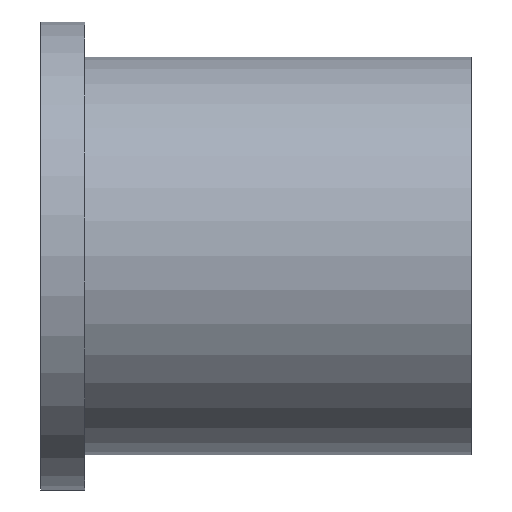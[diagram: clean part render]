
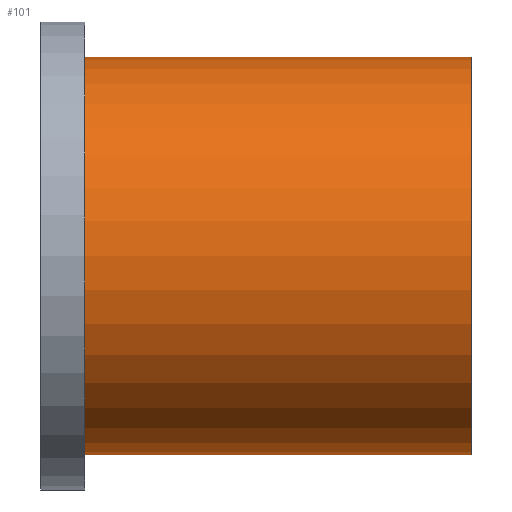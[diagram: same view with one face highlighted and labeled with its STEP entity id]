
A CAD part, top view. The second image highlights one B-rep face of the part: STEP entity #101.
In plain terms, the highlighted cylindrical face has radius 90 mm (diameter 180 mm), a full revolution.
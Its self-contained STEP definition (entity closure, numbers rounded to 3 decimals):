
#60=CARTESIAN_POINT('',(20.,90.,0.));
#61=VERTEX_POINT('',#60);
#62=CARTESIAN_POINT('',(20.,0.,0.));
#63=DIRECTION('',(1.,0.,0.));
#64=DIRECTION('',(0.,1.,0.));
#65=AXIS2_PLACEMENT_3D('',#62,#63,#64);
#66=CIRCLE('',#65,90.);
#67=EDGE_CURVE('',#61,#61,#66,.T.);
#77=CARTESIAN_POINT('',(195.,90.,0.));
#78=VERTEX_POINT('',#77);
#79=CARTESIAN_POINT('',(195.,0.,0.));
#80=DIRECTION('',(1.,0.,0.));
#81=DIRECTION('',(0.,1.,0.));
#82=AXIS2_PLACEMENT_3D('',#79,#80,#81);
#83=CIRCLE('',#82,90.);
#84=EDGE_CURVE('',#78,#78,#83,.T.);
#85=ORIENTED_EDGE('',*,*,#84,.F.);
#86=CARTESIAN_POINT('',(122.5,90.,0.));
#87=DIRECTION('',(1.,0.,0.));
#88=VECTOR('',#87,90.);
#89=LINE('',#86,#88);
#90=EDGE_CURVE('',#61,#78,#89,.T.);
#91=ORIENTED_EDGE('',*,*,#90,.F.);
#92=ORIENTED_EDGE('',*,*,#67,.T.);
#93=ORIENTED_EDGE('',*,*,#90,.T.);
#94=EDGE_LOOP('',(#85,#91,#92,#93));
#95=FACE_OUTER_BOUND('',#94,.T.);
#96=CARTESIAN_POINT('',(122.5,0.,0.));
#97=DIRECTION('',(1.,0.,0.));
#98=DIRECTION('',(0.,1.,0.));
#99=AXIS2_PLACEMENT_3D('',#96,#97,#98);
#100=CYLINDRICAL_SURFACE('',#99,90.);
#101=ADVANCED_FACE('',(#95),#100,.T.);
